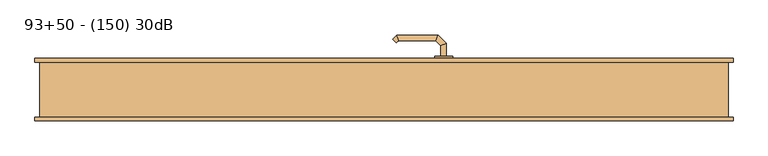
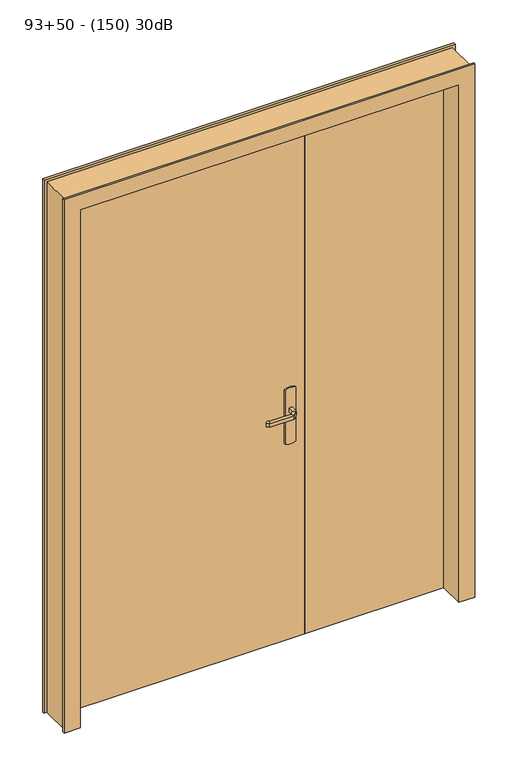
"""IFC4 building model written with IfcOpenShell, lengths in millimetres: door geometry, C&L Int. Tiercée double vantaux : 93+50 - (150) 30dB."""

from ifc_helpers import new_model, si_unit, point, frame, frame_2d, origin, origin_with_axes, place, context, project, spatial, polyline, circle_curve, ellipse_curve, trimmed, segment, composite_curve, outline, extrude, faceted_brep, source, transform, mapped, element, save
from ifc_brep_helpers import plane_surface, cylinder_surface, advanced_brep


def door_93_50_150_30db_ff7dab33(model_context):
    return source(origin(), model_context, "Body", "SolidModel", [
        extrude(outline(composite_curve([segment(polyline([(770.0, 150.0), (980.0, 150.0)]), True, "CONTINUOUS"), segment(trimmed(circle_curve(frame_2d((945.3589838, 130.0)), 40.0), [point((980.0, 150.0))], [point((980.0, 110.0))], False, "CARTESIAN"), True, "CONTINUOUS"), segment(polyline([(980.0, 110.0), (770.0, 110.0)]), True, "CONTINUOUS"), segment(trimmed(circle_curve(frame_2d((804.6410162, 130.0)), 40.0), [point((770.0, 110.0))], [point((770.0, 150.0))], False, "CARTESIAN"), True, "CONTINUOUS")], self_intersect=False)), frame((0.0, 68.0, 0.0), z_axis=(0.0, 1.0, 0.0), x_axis=(0.0, 0.0, 1.0)), (0.0, 0.0, 1.0), 5.0),
        extrude(outline(composite_curve([segment(polyline([(980.0, 110.0), (770.0, 110.0)]), True, "CONTINUOUS"), segment(trimmed(circle_curve(frame_2d((804.6410162, 130.0)), 40.0), [point((770.0, 110.0))], [point((770.0, 150.0))], False, "CARTESIAN"), True, "CONTINUOUS"), segment(polyline([(770.0, 150.0), (980.0, 150.0)]), True, "CONTINUOUS"), segment(trimmed(circle_curve(frame_2d((945.3589838, 130.0)), 40.0), [point((980.0, 150.0))], [point((980.0, 110.0))], False, "CARTESIAN"), True, "CONTINUOUS")], self_intersect=False)), frame((0.0, 23.0, 0.0), z_axis=(0.0, 1.0, 0.0), x_axis=(0.0, 0.0, 1.0)), (0.0, 0.0, 1.0), 5.0),
        advanced_brep(
        [(136.0, 73.0, 907.0), (124.0, 73.0, 907.0), (124.0, 73.0, 893.0), (136.0, 73.0, 893.0), (136.0, 100.6509507, 907.0), (124.0, 95.680388, 907.0), (124.0, 95.680388, 893.0), (136.0, 100.6509507, 893.0), (117.62279, 119.0281607, 907.0), (112.6522273, 107.0281607, 907.0), (112.6522273, 107.0281607, 893.0), (117.62279, 119.0281607, 893.0), (27.496078, 119.0281607, 907.0), (32.4666408, 107.0281607, 907.0), (32.4666408, 107.0281607, 893.0), (27.496078, 119.0281607, 893.0), (18.6676509, 110.1997336, 907.0), (18.6676509, 110.1997336, 893.0), (27.1529323, 101.7144522, 893.0), (27.1529323, 101.7144522, 907.0)],
        [
            (0, 1, circle_curve(frame((130.0, 73.0, 886.9542278), z_axis=(0.0, -1.0, 0.0), x_axis=(-1.0, 0.0, 0.0)), 20.9244589)),
            (1, 2),
            (2, 3, circle_curve(frame((130.0, 73.0, 913.0457722), z_axis=(0.0, -1.0, 0.0), x_axis=(-1.0, 0.0, 0.0)), 20.9244589)),
            (3, 0),
            (0, 4),
            (4, 5, ellipse_curve(frame((130.0, 98.1656693, 886.9542278), z_axis=(0.3826834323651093, -0.9238795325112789, 0.0), x_axis=(-0.9238795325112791, -0.38268343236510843, 0.0)), 22.6484711, 20.9244589)),
            (5, 1),
            (5, 6),
            (6, 2),
            (6, 7, ellipse_curve(frame((130.0, 98.1656693, 913.0457722), z_axis=(0.3826834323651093, -0.9238795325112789, 0.0), x_axis=(-0.9238795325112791, -0.38268343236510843, 0.0)), 22.6484711, 20.9244589)),
            (7, 3),
            (7, 4),
            (4, 8),
            (8, 9, ellipse_curve(frame((115.1375086, 113.0281607, 886.9542278), z_axis=(0.9238795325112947, -0.38268343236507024, 0.0), x_axis=(-0.3826834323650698, -0.9238795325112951, 0.0)), 22.6484711, 20.9244589)),
            (9, 5),
            (9, 10),
            (10, 6),
            (10, 11, ellipse_curve(frame((115.1375086, 113.0281607, 913.0457722), z_axis=(0.9238795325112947, -0.38268343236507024, 0.0), x_axis=(-0.3826834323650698, -0.9238795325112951, 0.0)), 22.6484711, 20.9244589)),
            (11, 7),
            (11, 8),
            (8, 12),
            (12, 13, ellipse_curve(frame((29.9813594, 113.0281607, 886.9542278), z_axis=(0.9238795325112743, 0.3826834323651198, 0.0), x_axis=(0.38268343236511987, -0.9238795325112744, 0.0)), 22.6484711, 20.9244589)),
            (13, 9),
            (13, 14),
            (14, 10),
            (14, 15, ellipse_curve(frame((29.9813594, 113.0281607, 913.0457722), z_axis=(0.9238795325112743, 0.3826834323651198, 0.0), x_axis=(0.38268343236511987, -0.9238795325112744, 0.0)), 22.6484711, 20.9244589)),
            (15, 11),
            (15, 12),
            (16, 17),
            (17, 18, circle_curve(frame((22.9102916, 105.9570929, 913.0457722), z_axis=(-0.7071067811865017, -0.7071067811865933, 0.0), x_axis=(0.7071067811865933, -0.7071067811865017, 0.0)), 20.9244589)),
            (18, 19),
            (19, 16, circle_curve(frame((22.9102916, 105.9570929, 886.9542278), z_axis=(-0.7071067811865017, -0.7071067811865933, 0.0), x_axis=(0.7071067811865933, -0.7071067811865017, 0.0)), 20.9244589)),
            (12, 16),
            (19, 13),
            (18, 14),
            (17, 15),
        ],
        [
            plane_surface(frame((139.2195445, 73.0, 900.0), z_axis=(0.0, -1.0, 0.0), x_axis=(0.0, 0.0, -1.0))),
            cylinder_surface(frame((130.0, 73.0, 886.9542278), z_axis=(0.0, -1.0, 0.0), x_axis=(-1.0, 0.0, 0.0)), 20.9244589),
            plane_surface(frame((124.0, 73.0, 907.0), z_axis=(-1.0, 0.0, 0.0), x_axis=(0.0, 1.0, 0.0))),
            cylinder_surface(frame((130.0, 73.0, 913.0457722), z_axis=(0.0, -1.0, 0.0), x_axis=(-1.0, 0.0, 0.0)), 20.9244589),
            plane_surface(frame((136.0, 73.0, 893.0), z_axis=(1.0, 0.0, 0.0), x_axis=(0.0, 1.0, 0.0))),
            cylinder_surface(frame((130.0, 98.1656693, 886.9542278), z_axis=(0.7071067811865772, -0.7071067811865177, 0.0), x_axis=(-0.7071067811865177, -0.7071067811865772, 0.0)), 20.9244589),
            plane_surface(frame((124.0, 95.680388, 907.0), z_axis=(-0.7071067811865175, -0.7071067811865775, 0.0), x_axis=(-0.7071067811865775, 0.7071067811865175, 0.0))),
            cylinder_surface(frame((130.0, 98.1656693, 913.0457722), z_axis=(0.7071067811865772, -0.7071067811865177, 0.0), x_axis=(-0.7071067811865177, -0.7071067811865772, 0.0)), 20.9244589),
            plane_surface(frame((136.0, 100.6509507, 893.0), z_axis=(0.7071067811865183, 0.7071067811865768, 0.0), x_axis=(-0.7071067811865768, 0.7071067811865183, 0.0))),
            cylinder_surface(frame((115.1375086, 113.0281607, 886.9542278), z_axis=(1.0, 0.0, 0.0), x_axis=(0.0, -1.0, 0.0)), 20.9244589),
            plane_surface(frame((112.6522273, 107.0281607, 907.0), z_axis=(0.0, -1.0, 0.0), x_axis=(-1.0, 0.0, 0.0))),
            cylinder_surface(frame((115.1375086, 113.0281607, 913.0457722), z_axis=(1.0, 0.0, 0.0), x_axis=(0.0, -1.0, 0.0)), 20.9244589),
            plane_surface(frame((117.62279, 119.0281607, 893.0), z_axis=(0.0, 1.0, 0.0), x_axis=(-1.0, 0.0, 0.0))),
            plane_surface(frame((22.9102916, 105.9570929, 909.2195445), z_axis=(-0.7071067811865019, -0.7071067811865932, 0.0), x_axis=(-0.7071067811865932, 0.7071067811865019, 0.0))),
            cylinder_surface(frame((29.9813594, 113.0281607, 886.9542278), z_axis=(0.7071067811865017, 0.7071067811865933, 0.0), x_axis=(0.7071067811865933, -0.7071067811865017, 0.0)), 20.9244589),
            plane_surface(frame((32.4666408, 107.0281607, 907.0), z_axis=(0.7071067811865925, -0.7071067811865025, 0.0), x_axis=(-0.7071067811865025, -0.7071067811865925, 0.0))),
            cylinder_surface(frame((29.9813594, 113.0281607, 913.0457722), z_axis=(0.7071067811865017, 0.7071067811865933, 0.0), x_axis=(0.7071067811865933, -0.7071067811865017, 0.0)), 20.9244589),
            plane_surface(frame((27.496078, 119.0281607, 893.0), z_axis=(-0.707106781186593, 0.7071067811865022, 0.0), x_axis=(-0.7071067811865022, -0.707106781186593, 0.0))),
        ],
        [
            (0, [[1, 2, 3, 4]]),
            (1, [[-1, 5, 6, 7]]),
            (2, [[-2, -7, 8, 9]]),
            (3, [[-3, -9, 10, 11]]),
            (4, [[-4, -11, 12, -5]]),
            (5, [[-6, 13, 14, 15]]),
            (6, [[-8, -15, 16, 17]]),
            (7, [[-10, -17, 18, 19]]),
            (8, [[-12, -19, 20, -13]]),
            (9, [[-14, 21, 22, 23]]),
            (10, [[-16, -23, 24, 25]]),
            (11, [[-18, -25, 26, 27]]),
            (12, [[-20, -27, 28, -21]]),
            (13, [[29, 30, 31, 32]]),
            (14, [[-22, 33, -32, 34]]),
            (15, [[-24, -34, -31, 35]]),
            (16, [[-26, -35, -30, 36]]),
            (17, [[-28, -36, -29, -33]]),
        ],
    ),
        advanced_brep(
        [(124.0, 23.0, 893.0), (124.0, 23.0, 907.0), (136.0, 23.0, 907.0), (136.0, 23.0, 893.0), (124.0, 0.5147955, 893.0), (124.0, 0.5147955, 907.0), (136.0, -4.4557673, 907.0), (136.0, -4.4557673, 893.0), (112.5147186, -10.9704859, 893.0), (112.5147186, -10.9704859, 907.0), (117.4852814, -22.9704859, 907.0), (117.4852814, -22.9704859, 893.0), (32.4394977, -10.9704859, 893.0), (32.4394977, -10.9704859, 907.0), (27.468935, -22.9704859, 907.0), (27.468935, -22.9704859, 893.0), (27.1257892, -5.6567774, 893.0), (18.6405078, -14.1420588, 893.0), (18.6405078, -14.1420588, 907.0), (27.1257892, -5.6567774, 907.0)],
        [
            (0, 1),
            (1, 2, circle_curve(frame((130.0, 23.0, 886.9542278), z_axis=(0.0, 1.0, 0.0), x_axis=(1.0, 0.0, 0.0)), 20.9244589)),
            (2, 3),
            (3, 0, circle_curve(frame((130.0, 23.0, 913.0457722), z_axis=(0.0, 1.0, 0.0), x_axis=(1.0, 0.0, 0.0)), 20.9244589)),
            (0, 4),
            (4, 5),
            (5, 1),
            (5, 6, ellipse_curve(frame((130.0, -1.9704859, 886.9542278), z_axis=(0.3826834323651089, 0.9238795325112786, 0.0), x_axis=(-0.9238795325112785, 0.3826834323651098, 0.0)), 22.6484711, 20.9244589)),
            (6, 2),
            (6, 7),
            (7, 3),
            (7, 4, ellipse_curve(frame((130.0, -1.9704859, 913.0457722), z_axis=(0.3826834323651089, 0.9238795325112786, 0.0), x_axis=(-0.9238795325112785, 0.3826834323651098, 0.0)), 22.6484711, 20.9244589)),
            (4, 8),
            (8, 9),
            (9, 5),
            (9, 10, ellipse_curve(frame((115.0, -16.9704859, 886.9542278), z_axis=(0.9238795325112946, 0.38268343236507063, 0.0), x_axis=(-0.3826834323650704, 0.9238795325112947, 0.0)), 22.6484711, 20.9244589)),
            (10, 6),
            (10, 11),
            (11, 7),
            (11, 8, ellipse_curve(frame((115.0, -16.9704859, 913.0457722), z_axis=(0.9238795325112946, 0.38268343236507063, 0.0), x_axis=(-0.3826834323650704, 0.9238795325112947, 0.0)), 22.6484711, 20.9244589)),
            (8, 12),
            (12, 13),
            (13, 9),
            (13, 14, ellipse_curve(frame((29.9542163, -16.9704859, 886.9542278), z_axis=(0.9238795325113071, -0.38268343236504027, 0.0), x_axis=(0.38268343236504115, 0.9238795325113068, 0.0)), 22.6484711, 20.9244589)),
            (14, 10),
            (14, 15),
            (15, 11),
            (15, 12, ellipse_curve(frame((29.9542163, -16.9704859, 913.0457722), z_axis=(0.9238795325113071, -0.38268343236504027, 0.0), x_axis=(0.38268343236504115, 0.9238795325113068, 0.0)), 22.6484711, 20.9244589)),
            (16, 17, circle_curve(frame((22.8831485, -9.8994181, 913.0457722), z_axis=(-0.7071067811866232, 0.7071067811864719, 0.0), x_axis=(-0.7071067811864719, -0.7071067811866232, 0.0)), 20.9244589)),
            (17, 18),
            (18, 19, circle_curve(frame((22.8831485, -9.8994181, 886.9542278), z_axis=(-0.7071067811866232, 0.7071067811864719, 0.0), x_axis=(-0.7071067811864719, -0.7071067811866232, 0.0)), 20.9244589)),
            (19, 16),
            (12, 16),
            (19, 13),
            (18, 14),
            (17, 15),
        ],
        [
            plane_surface(frame((139.2195445, 23.0, 900.0), z_axis=(0.0, 1.0, 0.0), x_axis=(0.0, 0.0, 1.0))),
            plane_surface(frame((124.0, 23.0, 893.0), z_axis=(-1.0, 0.0, 0.0), x_axis=(0.0, -1.0, 0.0))),
            cylinder_surface(frame((130.0, 23.0, 886.9542278), z_axis=(0.0, 1.0, 0.0), x_axis=(1.0, 0.0, 0.0)), 20.9244589),
            plane_surface(frame((136.0, 23.0, 907.0), z_axis=(1.0, 0.0, 0.0), x_axis=(0.0, -1.0, 0.0))),
            cylinder_surface(frame((130.0, 23.0, 913.0457722), z_axis=(0.0, 1.0, 0.0), x_axis=(1.0, 0.0, 0.0)), 20.9244589),
            plane_surface(frame((124.0, 0.5147955, 893.0), z_axis=(-0.707106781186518, 0.707106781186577, 0.0), x_axis=(-0.707106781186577, -0.707106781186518, 0.0))),
            cylinder_surface(frame((130.0, -1.9704859, 886.9542278), z_axis=(0.7071067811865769, 0.7071067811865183, 0.0), x_axis=(0.7071067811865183, -0.7071067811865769, 0.0)), 20.9244589),
            plane_surface(frame((136.0, -4.4557673, 907.0), z_axis=(0.7071067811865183, -0.7071067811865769, 0.0), x_axis=(-0.7071067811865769, -0.7071067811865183, 0.0))),
            cylinder_surface(frame((130.0, -1.9704859, 913.0457722), z_axis=(0.7071067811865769, 0.7071067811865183, 0.0), x_axis=(0.7071067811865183, -0.7071067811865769, 0.0)), 20.9244589),
            plane_surface(frame((112.5147186, -10.9704859, 893.0), z_axis=(0.0, 1.0, 0.0), x_axis=(-1.0, 0.0, 0.0))),
            cylinder_surface(frame((115.0, -16.9704859, 886.9542278), z_axis=(1.0, 0.0, 0.0), x_axis=(0.0, -1.0, 0.0)), 20.9244589),
            plane_surface(frame((117.4852814, -22.9704859, 907.0), z_axis=(0.0, -1.0, 0.0), x_axis=(-1.0, 0.0, 0.0))),
            cylinder_surface(frame((115.0, -16.9704859, 913.0457722), z_axis=(1.0, 0.0, 0.0), x_axis=(0.0, -1.0, 0.0)), 20.9244589),
            plane_surface(frame((22.8831485, -9.8994181, 890.7804555), z_axis=(-0.7071067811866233, 0.7071067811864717, 0.0), x_axis=(-0.7071067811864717, -0.7071067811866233, 0.0))),
            plane_surface(frame((32.4394977, -10.9704859, 893.0), z_axis=(0.7071067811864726, 0.7071067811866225, 0.0), x_axis=(-0.7071067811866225, 0.7071067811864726, 0.0))),
            cylinder_surface(frame((29.9542163, -16.9704859, 886.9542278), z_axis=(0.7071067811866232, -0.7071067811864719, 0.0), x_axis=(-0.7071067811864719, -0.7071067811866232, 0.0)), 20.9244589),
            plane_surface(frame((27.468935, -22.9704859, 907.0), z_axis=(-0.7071067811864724, -0.7071067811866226, 0.0), x_axis=(-0.7071067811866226, 0.7071067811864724, 0.0))),
            cylinder_surface(frame((29.9542163, -16.9704859, 913.0457722), z_axis=(0.7071067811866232, -0.7071067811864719, 0.0), x_axis=(-0.7071067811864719, -0.7071067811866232, 0.0)), 20.9244589),
        ],
        [
            (0, [[1, 2, 3, 4]]),
            (1, [[-1, 5, 6, 7]]),
            (2, [[-2, -7, 8, 9]]),
            (3, [[-3, -9, 10, 11]]),
            (4, [[-4, -11, 12, -5]]),
            (5, [[-6, 13, 14, 15]]),
            (6, [[-8, -15, 16, 17]]),
            (7, [[-10, -17, 18, 19]]),
            (8, [[-12, -19, 20, -13]]),
            (9, [[-14, 21, 22, 23]]),
            (10, [[-16, -23, 24, 25]]),
            (11, [[-18, -25, 26, 27]]),
            (12, [[-20, -27, 28, -21]]),
            (13, [[29, 30, 31, 32]]),
            (14, [[-22, 33, -32, 34]]),
            (15, [[-24, -34, -31, 35]]),
            (16, [[-26, -35, -30, 36]]),
            (17, [[-28, -36, -29, -33]]),
        ],
    ),
        faceted_brep([(-750.0, 60.0, 0.0), (-760.0, 60.0, 0.0), (-760.0, 68.0, 0.0), (-715.0, 68.0, 0.0), (-715.0, 28.0, 0.0), (-700.0, 28.0, 0.0), (-700.0, -68.0, 0.0), (-760.0, -68.0, 0.0), (-760.0, -60.0, 0.0), (-750.0, -60.0, 0.0), (-750.0, -60.0, 2075.0), (-750.0, 60.0, 2075.0), (-760.0, -60.0, 2085.0), (760.0, -60.0, 2085.0), (760.0, -60.0, 0.0), (750.0, -60.0, 0.0), (750.0, -60.0, 2075.0), (-760.0, -68.0, 2085.0), (-700.0, -68.0, 2025.0), (700.0, -68.0, 2025.0), (700.0, -68.0, 0.0), (760.0, -68.0, 0.0), (760.0, -68.0, 2085.0), (-700.0, 28.0, 2025.0), (-715.0, 28.0, 2040.0), (715.0, 28.0, 2040.0), (715.0, 28.0, 0.0), (700.0, 28.0, 0.0), (700.0, 28.0, 2025.0), (-715.0, 68.0, 2040.0), (-760.0, 68.0, 2085.0), (760.0, 68.0, 2085.0), (760.0, 68.0, 0.0), (715.0, 68.0, 0.0), (715.0, 68.0, 2040.0), (-760.0, 60.0, 2085.0), (750.0, 60.0, 2075.0), (750.0, 60.0, 0.0), (760.0, 60.0, 0.0), (760.0, 60.0, 2085.0)], [[[0, 1, 2, 3, 4, 5, 6, 7, 8, 9]], [[9, 10, 11, 0]], [[8, 12, 13, 14, 15, 16, 10, 9]], [[7, 17, 12, 8]], [[6, 18, 19, 20, 21, 22, 17, 7]], [[5, 23, 18, 6]], [[4, 24, 25, 26, 27, 28, 23, 5]], [[3, 29, 24, 4]], [[2, 30, 31, 32, 33, 34, 29, 3]], [[1, 35, 30, 2]], [[0, 11, 36, 37, 38, 39, 35, 1]], [[10, 16, 36, 11]], [[17, 22, 13, 12]], [[23, 28, 19, 18]], [[29, 34, 25, 24]], [[35, 39, 31, 30]], [[37, 15, 14, 21, 20, 27, 26, 33, 32, 38]], [[16, 15, 37, 36]], [[22, 21, 14, 13]], [[28, 27, 20, 19]], [[34, 33, 26, 25]], [[39, 38, 32, 31]]]),
        extrude(outline(polyline([(715.0, 68.0), (715.0, 28.0), (185.0, 28.0), (185.0, 68.0), (715.0, 68.0)])), origin_with_axes(), (0.0, 0.0, 1.0), 2040.0),
        extrude(outline(polyline([(185.0, 68.0), (185.0, 28.0), (-715.0, 28.0), (-715.0, 68.0), (185.0, 68.0)])), origin_with_axes(), (0.0, 0.0, 1.0), 2040.0),
    ])


if __name__ == "__main__":
    model = new_model("IFC4")
    model_context = context("Model", 3, world=origin())
    ifc_project = project(units=[si_unit("LENGTHUNIT", "METRE", prefix="MILLI")], contexts=[model_context])
    site = spatial("IfcSite", under=ifc_project)
    building = spatial("IfcBuilding", under=site)
    placement = place(None, origin())
    door_93_50_150_30db_shape = door_93_50_150_30db_ff7dab33(model_context)
    element("IfcDoor", 1, ObjectType="C&L Int. Tiercée double vantaux : 93+50 - (150) 30dB", at=placement, inside=building, context=model_context, shape_type="MappedRepresentation", body=[
        mapped(door_93_50_150_30db_shape, transform((0.0, 0.0, 0.0), x_axis=(1.0, 0.0, 0.0), y_axis=(0.0, 1.0, 0.0), z_axis=(0.0, 0.0, 1.0))),
    ])
    save(model, "model.ifc")
